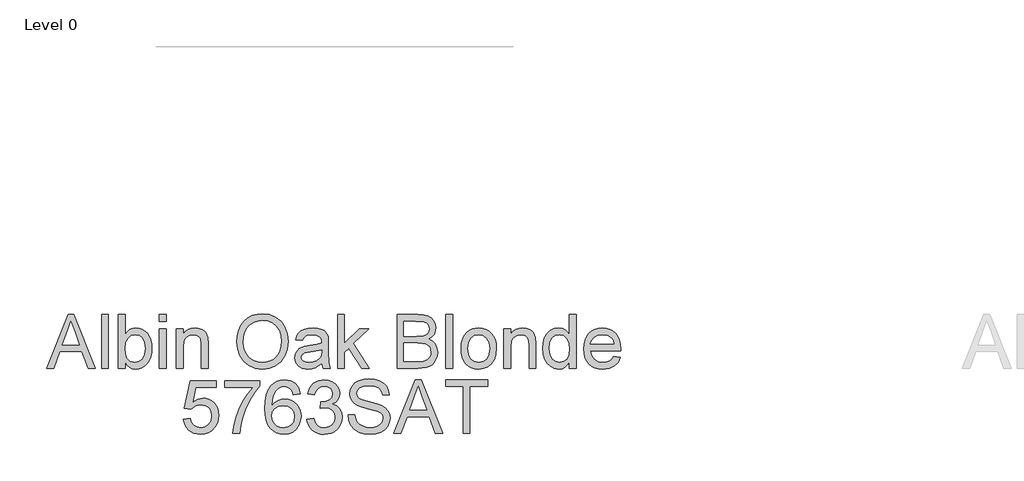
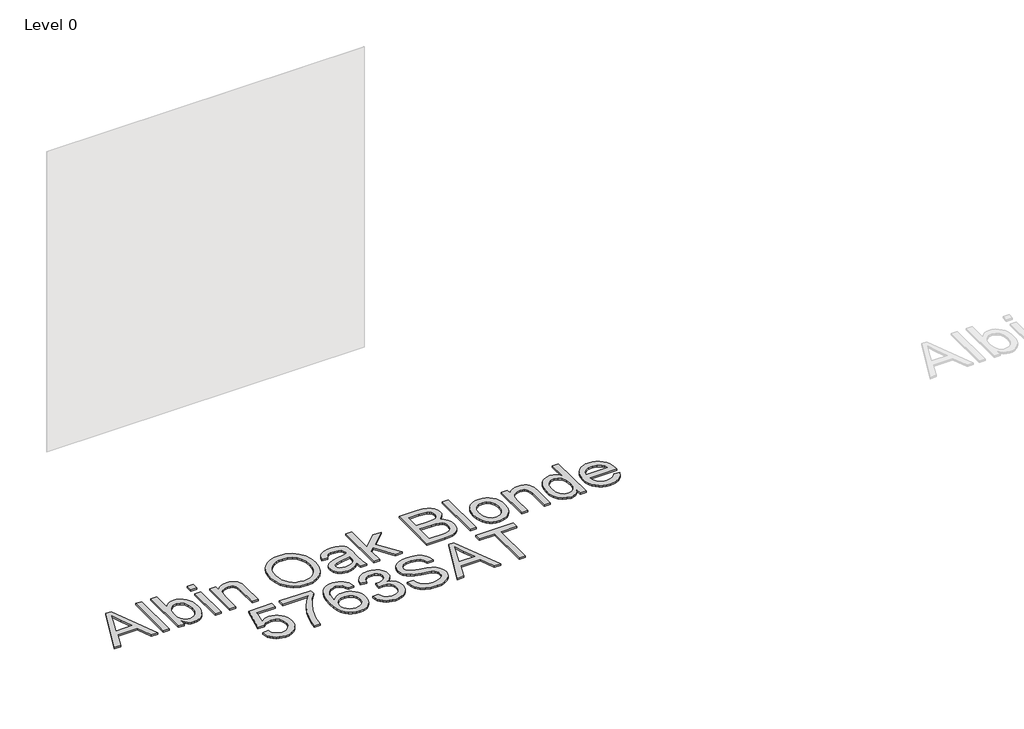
# One storey, part 7 of 43: 1 proxy.
"""IFC4 building model written with IfcOpenShell, lengths in millimetres."""

from ifc_helpers import new_model, si_unit, origin, origin_with_axes, place, context, project, spatial, polyline, outline, extrude, element, save

model = new_model("IFC4")

# Units and contexts
model_context = context("Model", 3, world=origin())
ifc_project = project(units=[si_unit("LENGTHUNIT", "METRE", prefix="MILLI")], contexts=[model_context])

# Site, building, storey
site = spatial("IfcSite", under=ifc_project)
building = spatial("IfcBuilding", under=site)
storey = spatial("IfcBuildingStorey", under=building, Name="Level 0", Elevation=0.0)

# Proxy
placement = place(None, origin())
element("IfcBuildingElementProxy", 1, Name="300mm Arial", ObjectType="300mm Arial", at=placement, inside=storey, context=model_context, shape_type="SweptSolid", body=[
    extrude(outline(polyline([(-11065.5864387, -27017.4454346), (-10945.2890263, -26716.0765041), (-10913.2097163, -26716.0765041), (-10792.9123039, -27017.4454346), (-10832.7171358, -27017.4454346), (-10867.2244669, -26923.2676438), (-10991.3478521, -26923.2676438), (-11025.7816069, -27017.4454346), (-11065.5864387, -27017.4454346)]), holes=[polyline([(-10977.5154891, -26885.5965275), (-10880.9832536, -26885.5965275), (-10908.1329448, -26811.5050937), (-10929.2493713, -26753.7476204), (-10948.0113531, -26805.0303705), (-10977.5154891, -26885.5965275)])]), origin_with_axes(), (0.0, 0.0, 1.0), 10.0),
    extrude(outline(polyline([(-10757.3749032, -27017.4454346), (-10757.3749032, -26716.0765041), (-10719.7037869, -26716.0765041), (-10719.7037869, -27017.4454346), (-10757.3749032, -27017.4454346)])), origin_with_axes(), (0.0, 0.0, 1.0), 10.0),
    extrude(outline(polyline([(-10625.5259961, -27017.4454346), (-10663.1971124, -27017.4454346), (-10663.1971124, -26716.0765041), (-10625.5259961, -26716.0765041), (-10625.5259961, -26827.8390542), (-10613.1375699, -26811.9051653), (-10599.148857, -26800.5238161), (-10583.5598575, -26793.6950066), (-10566.3705713, -26791.4187367), (-10546.964796, -26793.4696788), (-10528.6258786, -26799.6225052), (-10512.4022826, -26809.4909397), (-10499.3424718, -26822.6887063), (-10489.1061552, -26839.0870462), (-10481.3530422, -26858.5572008), (-10476.4694087, -26880.2898297), (-10474.8415309, -26903.4755924), (-10476.5268903, -26930.2298105), (-10481.5829684, -26953.7650612), (-10490.0097654, -26974.0813444), (-10501.8072811, -26991.1786601), (-10515.9684387, -27004.7305131), (-10531.4861611, -27014.4104081), (-10548.3604484, -27020.2183451), (-10566.5913005, -27022.1543241), (-10584.3462053, -27019.657325), (-10600.0869561, -27012.1663279), (-10613.8135531, -26999.6813327), (-10625.5259961, -26982.2023394), (-10625.5259961, -27017.4454346)]), holes=[polyline([(-10625.5259961, -26905.241426), (-10622.9508221, -26936.6585484), (-10615.2253002, -26957.9221277), (-10606.0972282, -26969.5426003), (-10595.4884312, -26977.8429378), (-10583.3989091, -26982.8231403), (-10569.828662, -26984.4832078), (-10548.0868361, -26979.5903772), (-10529.5087954, -26964.9118856), (-10516.7616842, -26940.5397035), (-10512.5126472, -26906.5658012), (-10516.5869403, -26872.0952583), (-10528.8098196, -26847.9989876), (-10546.8084462, -26833.8171367), (-10568.2099813, -26829.089853), (-10589.9518072, -26833.9826836), (-10608.5298479, -26848.6611752), (-10621.2769591, -26872.591899), (-10625.5259961, -26905.241426)])]), origin_with_axes(), (0.0, 0.0, 1.0), 10.0),
    extrude(outline(polyline([(-10432.461525, -26753.7476204), (-10432.461525, -26716.0765041), (-10394.7904087, -26716.0765041), (-10394.7904087, -26753.7476204), (-10432.461525, -26753.7476204)])), origin_with_axes(), (0.0, 0.0, 1.0), 10.0),
    extrude(outline(polyline([(-10432.461525, -27017.4454346), (-10432.461525, -26796.1276263), (-10394.7904087, -26796.1276263), (-10394.7904087, -27017.4454346), (-10432.461525, -27017.4454346)])), origin_with_axes(), (0.0, 0.0, 1.0), 10.0),
    extrude(outline(polyline([(-10338.2837343, -27017.4454346), (-10338.2837343, -26796.1276263), (-10300.612618, -26796.1276263), (-10300.612618, -26827.0297138), (-10287.525216, -26811.4499114), (-10271.8074577, -26800.321481), (-10253.4593432, -26793.6444228), (-10232.4808725, -26791.4187367), (-10213.9120288, -26793.2121614), (-10196.9066835, -26798.5924356), (-10182.7248326, -26806.8881746), (-10172.6264718, -26817.4279938), (-10161.3324946, -26845.129508), (-10159.3459318, -26881.5498255), (-10159.3459318, -27017.4454346), (-10197.0170481, -27017.4454346), (-10197.0170481, -26886.6265971), (-10201.3580557, -26853.2964883), (-10207.3637292, -26843.3728715), (-10216.6987349, -26835.6749407), (-10228.6640968, -26830.7361249), (-10242.5608391, -26829.089853), (-10264.6245618, -26832.7870671), (-10283.4325288, -26843.8787092), (-10290.9488178, -26852.9332048), (-10296.3175957, -26865.3078354), (-10300.612618, -26900.0175017), (-10300.612618, -27017.4454346), (-10338.2837343, -27017.4454346)])), origin_with_axes(), (0.0, 0.0, 1.0), 10.0),
    extrude(outline(polyline([(-9999.2436875, -26870.7340949), (-9996.7328929, -26835.3852337), (-9989.200509, -26804.0922714), (-9976.646536, -26776.8552082), (-9959.0709736, -26753.674044), (-9937.5268843, -26735.1649811), (-9913.0673301, -26721.9442219), (-9885.6923112, -26714.0117664), (-9855.4018274, -26711.3676146), (-9815.872907, -26716.3340215), (-9780.4274768, -26731.2332423), (-9750.9969172, -26755.0168133), (-9729.5126087, -26786.6362708), (-9716.3792214, -26824.5649045), (-9712.0014257, -26867.2760041), (-9716.6091477, -26910.5573209), (-9730.4323136, -26949.0193834), (-9752.7075684, -26980.6940232), (-9782.671557, -27003.6130715), (-9817.8134845, -27017.519011), (-9855.6225566, -27022.1543241), (-9895.7584823, -27017.0315673), (-9931.4062476, -27001.663297), (-9960.7632308, -26977.4382676), (-9982.0268101, -26945.7452337), (-9994.9394682, -26909.2789309), (-9999.2436875, -26870.7340949)]), holes=[polyline([(-9961.5725712, -26871.1019769), (-9959.6894752, -26896.0765658), (-9954.0401874, -26918.2460546), (-9944.6247075, -26937.6104431), (-9931.4430358, -26954.1697314), (-9915.4194757, -26967.4318773), (-9897.4783306, -26976.9048387), (-9877.6196006, -26982.5886155), (-9855.8432858, -26984.4832078), (-9833.6944904, -26982.5702214), (-9813.6012357, -26976.8312623), (-9795.5635216, -26967.2663304), (-9779.5813482, -26953.8754258), (-9766.4962455, -26936.9666496), (-9757.1497435, -26916.848103), (-9751.5418424, -26893.519786), (-9749.672542, -26866.9816985), (-9752.8731153, -26833.6331957), (-9762.4748354, -26804.8096413), (-9778.2293819, -26781.2376025), (-9799.8884343, -26763.6436461), (-9826.017253, -26752.6899597), (-9855.1810982, -26749.0387309), (-9876.2009557, -26750.7976667), (-9895.7033, -26756.074474), (-9913.688131, -26764.869153), (-9930.1554488, -26777.1817035), (-9943.9004399, -26793.6053353), (-9953.7182906, -26814.7332582), (-9959.6090011, -26840.565472), (-9961.5725712, -26871.1019769)])]), origin_with_axes(), (0.0, 0.0, 1.0), 10.0),
    extrude(outline(polyline([(-9523.6458442, -26989.1920973), (-9541.6444708, -27004.624747), (-9560.1765263, -27014.7231078), (-9579.665075, -27020.29652), (-9600.5331811, -27022.1543241), (-9632.0146829, -27017.6845578), (-9655.2372338, -27004.2752591), (-9669.5570405, -26983.9129907), (-9674.3303094, -26958.5843153), (-9672.5276876, -26942.9677246), (-9667.1198223, -26928.7858737), (-9658.778098, -26916.6457679), (-9648.1738995, -26907.1544124), (-9621.7967605, -26894.7935774), (-9589.2024157, -26889.1281946), (-9550.6851708, -26883.1685063), (-9523.8665733, -26876.1787484), (-9523.6458442, -26867.7910389), (-9526.2394122, -26850.9788317), (-9534.0201164, -26839.9791601), (-9551.4209348, -26831.8121798), (-9575.6643583, -26829.089853), (-9598.10516, -26830.9016718), (-9613.776933, -26836.3371283), (-9624.4639049, -26846.3895038), (-9631.9503035, -26862.0520798), (-9669.6214198, -26857.3431903), (-9663.0823174, -26836.7417985), (-9653.3242475, -26820.5549907), (-9639.4367021, -26808.1757616), (-9620.5091735, -26798.9971058), (-9597.3601989, -26793.313329), (-9570.8083159, -26791.4187367), (-9545.3416848, -26793.0925998), (-9525.1541603, -26798.114189), (-9509.9330428, -26805.664967), (-9499.3656325, -26814.9263962), (-9492.3574805, -26826.3767233), (-9487.8141378, -26840.4941949), (-9485.9747278, -26873.4564216), (-9485.9747278, -26920.3245878), (-9484.0617415, -26985.7707948), (-9476.5569488, -27017.4454346), (-9514.2280651, -27017.4454346), (-9523.6458442, -26989.1920973)]), holes=[polyline([(-9523.6458442, -26913.8498647), (-9584.4199498, -26925.4013594), (-9616.8303535, -26931.5082005), (-9631.5088451, -26941.4410143), (-9636.6591931, -26955.935565), (-9633.8540929, -26967.1375717), (-9625.4387922, -26976.3162275), (-9611.5972321, -26982.4414627), (-9592.5133536, -26984.4832078), (-9572.2798439, -26982.2299306), (-9554.4007789, -26975.4700989), (-9539.9062283, -26965.5096939), (-9529.8262617, -26953.6546966), (-9525.3564954, -26941.4410143), (-9523.8665733, -26924.5184426), (-9523.6458442, -26913.8498647)])]), origin_with_axes(), (0.0, 0.0, 1.0), 10.0),
    extrude(outline(polyline([(-9434.1769429, -27017.4454346), (-9434.1769429, -26716.0765041), (-9396.5058266, -26716.0765041), (-9396.5058266, -26878.0181584), (-9312.0401205, -26796.1276263), (-9259.94803, -26796.1276263), (-9345.4438057, -26879.048228), (-9255.2391405, -27017.4454346), (-9299.2378271, -27017.4454346), (-9372.4463441, -26905.241426), (-9396.5058266, -26928.5651445), (-9396.5058266, -27017.4454346), (-9434.1769429, -27017.4454346)])), origin_with_axes(), (0.0, 0.0, 1.0), 10.0),
    extrude(outline(polyline([(-9099.8457857, -27017.4454346), (-9099.8457857, -26716.0765041), (-8984.845874, -26716.0765041), (-8953.2172195, -26718.2929931), (-8928.5231406, -26724.9424602), (-8909.5956119, -26736.1904522), (-8895.2666082, -26752.202516), (-8886.2443023, -26771.0380742), (-8883.2368669, -26790.7565491), (-8885.7660557, -26808.9023285), (-8893.3536218, -26825.9628561), (-8906.0547477, -26840.889668), (-8923.9246156, -26852.6343007), (-8902.5782628, -26863.7811252), (-8886.8053223, -26880.7404851), (-8877.0656465, -26902.3903406), (-8873.8190879, -26927.6086513), (-8876.0355769, -26948.6239103), (-8882.685044, -26968.112459), (-8892.6086608, -26984.6855429), (-8904.6475991, -26996.9544074), (-8919.39047, -27005.8387576), (-8937.4258848, -27012.2582984), (-8985.7287908, -27017.4454346), (-9099.8457857, -27017.4454346)]), holes=[polyline([(-9062.1746694, -26838.5076321), (-8993.3807363, -26838.5076321), (-8953.2080224, -26835.2702705), (-8939.1457332, -26829.6876613), (-8929.0381753, -26821.3275429), (-8922.9405313, -26810.3186742), (-8920.9079833, -26796.7898138), (-8922.8025755, -26783.6564266), (-8928.4863524, -26772.2152966), (-8937.7017963, -26763.2849611), (-8950.1913901, -26757.6839578), (-8998.6046606, -26753.7476204), (-9062.1746694, -26753.7476204), (-9062.1746694, -26838.5076321)]), polyline([(-9062.1746694, -26979.7743182), (-8984.9194504, -26979.7743182), (-8956.9604188, -26978.3027903), (-8933.3056065, -26970.0990218), (-8917.6338335, -26953.360391), (-8913.0261115, -26941.5329848), (-8911.4902042, -26927.9765333), (-8913.292826, -26912.2311839), (-8918.7006913, -26898.6931265), (-8928.1460615, -26888.1073221), (-8942.061198, -26881.2187317), (-8961.7704759, -26877.4387442), (-8988.5982704, -26876.1787484), (-9062.1746694, -26876.1787484), (-9062.1746694, -26979.7743182)])]), origin_with_axes(), (0.0, 0.0, 1.0), 10.0),
    extrude(outline(polyline([(-8826.7301925, -27017.4454346), (-8826.7301925, -26716.0765041), (-8789.0590762, -26716.0765041), (-8789.0590762, -27017.4454346), (-8826.7301925, -27017.4454346)])), origin_with_axes(), (0.0, 0.0, 1.0), 10.0),
    extrude(outline(polyline([(-8741.9701808, -26906.7865304), (-8739.9330343, -26878.1239245), (-8733.8215946, -26853.425247), (-8723.6358619, -26832.690498), (-8709.375836, -26815.9196776), (-8695.0192412, -26805.200516), (-8679.1727242, -26797.5439719), (-8661.8362852, -26792.9500455), (-8643.0099241, -26791.4187367), (-8622.2268906, -26793.2834386), (-8603.4350185, -26798.8775442), (-8586.6343076, -26808.2010535), (-8571.824758, -26821.2539665), (-8559.7375352, -26837.5948249), (-8551.1038047, -26856.7821702), (-8545.9235663, -26878.8160025), (-8544.1968202, -26903.6963216), (-8547.2502408, -26941.753714), (-8556.4105024, -26970.7244212), (-8571.4108908, -26992.4202618), (-8591.9846914, -27008.6530549), (-8616.4212529, -27018.7790068), (-8643.0099241, -27022.1543241), (-8664.0964602, -27020.29652), (-8683.0630763, -27014.7231078), (-8699.9097724, -27005.4340874), (-8714.6365486, -26992.4294589), (-8726.5950127, -26975.9299514), (-8735.1367727, -26956.1562942), (-8740.2618288, -26933.1084872), (-8741.9701808, -26906.7865304)]), holes=[polyline([(-8704.2990645, -26906.712954), (-8699.9396628, -26940.8064179), (-8686.8614579, -26965.0958266), (-8667.1797712, -26979.6363625), (-8643.0099241, -26984.4832078), (-8618.9504416, -26979.6087713), (-8599.3055431, -26964.985462), (-8586.2273381, -26940.3741566), (-8581.8679365, -26905.5357316), (-8586.2549293, -26872.4355491), (-8599.4159077, -26848.4772342), (-8619.0883974, -26833.9366983), (-8643.0099241, -26829.089853), (-8667.1797712, -26833.9183042), (-8686.8614579, -26848.4036578), (-8699.9396628, -26872.6378842), (-8704.2990645, -26906.712954)])]), origin_with_axes(), (0.0, 0.0, 1.0), 10.0),
    extrude(outline(polyline([(-8501.8168143, -27017.4454346), (-8501.8168143, -26796.1276263), (-8464.145698, -26796.1276263), (-8464.145698, -26827.0297138), (-8451.0582961, -26811.4499114), (-8435.3405378, -26800.321481), (-8416.9924233, -26793.6444228), (-8396.0139525, -26791.4187367), (-8377.4451088, -26793.2121614), (-8360.4397636, -26798.5924356), (-8346.2579127, -26806.8881746), (-8336.1595519, -26817.4279938), (-8324.8655747, -26845.129508), (-8322.8790119, -26881.5498255), (-8322.8790119, -27017.4454346), (-8360.5501282, -27017.4454346), (-8360.5501282, -26886.6265971), (-8364.8911357, -26853.2964883), (-8370.8968093, -26843.3728715), (-8380.2318149, -26835.6749407), (-8392.1971768, -26830.7361249), (-8406.0939192, -26829.089853), (-8428.1576419, -26832.7870671), (-8446.9656089, -26843.8787092), (-8454.4818979, -26852.9332048), (-8459.8506757, -26865.3078354), (-8464.145698, -26900.0175017), (-8464.145698, -27017.4454346), (-8501.8168143, -27017.4454346)])), origin_with_axes(), (0.0, 0.0, 1.0), 10.0),
    extrude(outline(polyline([(-8134.5234304, -27017.4454346), (-8134.5234304, -26981.9080338), (-8145.794415, -26999.5157858), (-8159.4474355, -27012.0927515), (-8175.482492, -27019.6389309), (-8193.8995844, -27022.1543241), (-8218.2533725, -27018.5122923), (-8240.5470214, -27007.5861971), (-8259.4193677, -26990.1393935), (-8273.5092481, -26966.9352366), (-8282.2832337, -26938.9118256), (-8285.2078956, -26907.0072596), (-8282.51316, -26875.4981667), (-8274.4289531, -26847.0424944), (-8260.9644721, -26823.2589234), (-8242.128914, -26805.7661345), (-8219.3478214, -26795.0055862), (-8194.0467372, -26791.4187367), (-8175.6158492, -26793.9847136), (-8159.3186768, -26801.6826444), (-8145.5047079, -26813.4824594), (-8134.5234304, -26828.354089), (-8134.5234304, -26716.0765041), (-8096.8523141, -26716.0765041), (-8096.8523141, -27017.4454346), (-8134.5234304, -27017.4454346)]), holes=[polyline([(-8247.5367793, -26906.8601068), (-8243.2877422, -26940.9351766), (-8230.5406311, -26965.169403), (-8212.0177726, -26979.6547566), (-8190.4414936, -26984.4832078), (-8168.8744117, -26979.8754858), (-8150.8206027, -26966.0523198), (-8138.5977235, -26942.7561925), (-8134.5234304, -26909.7295864), (-8138.6712999, -26873.6219685), (-8151.1149083, -26848.5875988), (-8169.6285698, -26833.9642895), (-8191.986598, -26829.089853), (-8213.7836062, -26833.7711514), (-8231.6442771, -26847.8150466), (-8243.5636537, -26871.9389084), (-8247.5367793, -26906.8601068)])]), origin_with_axes(), (0.0, 0.0, 1.0), 10.0),
    extrude(outline(polyline([(-7885.3937432, -26951.520981), (-7848.4583909, -26956.2298706), (-7861.7665221, -26984.0601435), (-7883.0025103, -27004.8638703), (-7911.6881088, -27017.8317106), (-7947.3450712, -27022.1543241), (-7970.7193735, -27020.2896222), (-7991.5460929, -27014.6955166), (-8009.8252296, -27005.3720073), (-8025.5567834, -26992.3190943), (-8038.2073255, -26975.900061), (-8047.243427, -26956.4781909), (-8052.6650879, -26934.053484), (-8054.4723082, -26908.6259404), (-8052.6466938, -26882.3361733), (-8047.1698506, -26859.1642061), (-8038.0417786, -26839.1100389), (-8025.2624778, -26822.1736715), (-8009.5723107, -26808.7183875), (-7991.7116398, -26799.1074704), (-7971.6804652, -26793.3409201), (-7949.4787868, -26791.4187367), (-7927.992179, -26793.3363216), (-7908.5611119, -26799.0890763), (-7891.1855854, -26808.6770008), (-7875.8655996, -26822.1000951), (-7863.359911, -26838.9996743), (-7854.4272763, -26859.0170533), (-7849.0676955, -26882.1522323), (-7847.2811685, -26908.4052112), (-7847.5018977, -26918.5587542), (-8016.8011919, -26918.5587542), (-8010.2804835, -26946.7569092), (-7995.1329424, -26967.4870596), (-7973.2715548, -26980.2341707), (-7946.6093072, -26984.4832078), (-7926.5597385, -26982.5150391), (-7909.6739549, -26976.6105331), (-7895.9519565, -26966.4018077), (-7885.3937432, -26951.520981)]), holes=[polyline([(-8016.8011919, -26880.8876379), (-7884.9522848, -26880.8876379), (-7890.0474505, -26860.985222), (-7900.0354466, -26846.7481888), (-7921.9980017, -26833.504437), (-7949.6259396, -26829.089853), (-7975.0189943, -26832.6123231), (-7996.0158592, -26843.1797334), (-8010.6115773, -26859.6516498), (-8016.8011919, -26880.8876379)])]), origin_with_axes(), (0.0, 0.0, 1.0), 10.0),
    extrude(outline(polyline([(-10298.2581732, -27303.3187659), (-10260.5870569, -27298.6098764), (-10253.6708754, -27321.2254221), (-10241.6043459, -27337.4214269), (-10224.4426509, -27347.1611027), (-10202.2409725, -27350.4076613), (-10175.238434, -27345.8919098), (-10155.0049243, -27332.3446554), (-10142.3681777, -27311.3293964), (-10138.1559289, -27284.4096314), (-10142.1014633, -27259.0625619), (-10153.9380665, -27239.6751808), (-10173.757709, -27227.369528), (-10201.6523613, -27223.2676438), (-10219.9268994, -27224.9047187), (-10234.7249526, -27229.8159433), (-10255.8781674, -27246.8120915), (-10293.5492837, -27242.1032019), (-10260.5870569, -27086.7098472), (-10114.6114812, -27086.7098472), (-10114.6114812, -27124.3809635), (-10230.1264277, -27124.3809635), (-10246.2396591, -27207.3751416), (-10219.3290911, -27191.041181), (-10191.1309362, -27185.5965275), (-10172.785121, -27187.2841861), (-10155.9338263, -27192.3471621), (-10140.5770523, -27200.7854554), (-10126.7147988, -27212.5990659), (-10115.2391799, -27227.0660254), (-10107.0423092, -27243.4643653), (-10102.1241867, -27261.7940857), (-10100.4848126, -27282.0551866), (-10106.3893186, -27319.7263029), (-10113.7699511, -27336.520116), (-10124.1028367, -27351.9527657), (-10139.7562156, -27367.7578959), (-10158.0215566, -27379.0472746), (-10178.8988599, -27385.8209019), (-10202.3881253, -27388.0787776), (-10239.3878569, -27382.2754392), (-10255.0665277, -27375.0212661), (-10268.8644018, -27364.8654237), (-10280.3446193, -27352.3137499), (-10289.0703204, -27337.8720823), (-10298.2581732, -27303.3187659)])), origin_with_axes(), (0.0, 0.0, 1.0), 10.0),
    extrude(outline(polyline([(-10067.5225858, -27124.3809635), (-10067.5225858, -27086.7098472), (-9869.7492252, -27086.7098472), (-9869.7492252, -27117.1704764), (-9897.9381831, -27152.8458329), (-9925.8512295, -27198.2148799), (-9950.471732, -27249.1389451), (-9968.7830583, -27301.479356), (-9977.759379, -27340.6403943), (-9982.7625741, -27383.3698881), (-10020.4336904, -27383.3698881), (-10016.3593973, -27344.5399435), (-10005.4608932, -27298.3891472), (-9988.0324837, -27249.4700389), (-9964.3684744, -27202.3351583), (-9936.7405365, -27159.7252262), (-9907.4203415, -27124.3809635), (-10067.5225858, -27124.3809635)])), origin_with_axes(), (0.0, 0.0, 1.0), 10.0),
    extrude(outline(polyline([(-9643.7225274, -27162.0520798), (-9681.3936437, -27166.7609693), (-9687.4636966, -27148.0909581), (-9695.6674651, -27135.3438469), (-9712.7555838, -27123.5900172), (-9733.4121578, -27119.6720739), (-9750.9233408, -27121.9529423), (-9767.4044542, -27128.7955474), (-9781.5587139, -27143.2073246), (-9793.1194056, -27163.0453612), (-9800.927701, -27191.1055604), (-9803.8247717, -27230.1838253), (-9788.7140187, -27212.5530807), (-9770.6050275, -27200.1278663), (-9750.5094735, -27192.7610293), (-9729.4390323, -27190.305417), (-9711.3392381, -27191.9838786), (-9694.6373955, -27197.0192634), (-9679.3335045, -27205.4115714), (-9665.4275651, -27217.1608027), (-9653.8714719, -27231.5679813), (-9645.6171197, -27247.9341316), (-9640.6645083, -27266.2592534), (-9639.0136378, -27286.543347), (-9642.1222407, -27313.5182943), (-9651.4480493, -27338.5250729), (-9666.2185114, -27359.7334699), (-9685.6610748, -27375.3132724), (-9708.8928228, -27384.8874013), (-9735.0308386, -27388.0787776), (-9757.4877351, -27385.9634562), (-9777.7695294, -27379.6174917), (-9795.8762213, -27369.0408844), (-9811.807811, -27354.2336341), (-9824.7963447, -27334.5703414), (-9834.0738687, -27309.4256071), (-9839.6403832, -27278.799431), (-9841.495888, -27242.6918131), (-9839.4357488, -27202.2109981), (-9833.2553313, -27167.6622802), (-9822.9546354, -27139.0456595), (-9808.5336612, -27116.361136), (-9792.9032749, -27101.328558), (-9774.7804882, -27090.5910022), (-9754.1653009, -27084.1484688), (-9731.057713, -27082.0009576), (-9698.0035158, -27087.3168525), (-9671.5344062, -27103.264537), (-9652.9931537, -27128.5932123), (-9643.7225274, -27162.0520798)]), holes=[polyline([(-9803.8247717, -27285.9547358), (-9801.6450709, -27302.6473813), (-9795.1059684, -27318.5858687), (-9784.9524253, -27332.2894731), (-9771.9294027, -27342.2774692), (-9756.2116445, -27348.3751133), (-9737.9738945, -27350.4076613), (-9713.1142687, -27346.1954125), (-9693.5705377, -27333.5586659), (-9680.9062, -27313.6930382), (-9676.6847541, -27287.7941457), (-9680.8510177, -27262.9345199), (-9693.3498085, -27243.9794001), (-9713.2246333, -27231.97725), (-9739.5189989, -27227.9765333), (-9764.3418365, -27231.97725), (-9785.0995781, -27243.9794001), (-9799.1434733, -27262.4746674), (-9803.8247717, -27285.9547358)])]), origin_with_axes(), (0.0, 0.0, 1.0), 10.0),
    extrude(outline(polyline([(-9606.0514111, -27303.3187659), (-9568.3802948, -27298.6098764), (-9559.9466, -27322.2830828), (-9547.594962, -27338.2675555), (-9530.7183755, -27347.3726349), (-9508.7098351, -27350.4076613), (-9482.8845191, -27346.2322007), (-9462.9453149, -27333.7058187), (-9450.1982038, -27315.0174134), (-9445.9491668, -27292.3558825), (-9450.1614156, -27270.8439828), (-9462.7981621, -27253.3971792), (-9481.9280259, -27241.8364875), (-9505.6196264, -27237.9829236), (-9532.0335536, -27242.1032019), (-9527.8396989, -27204.4320856), (-9521.8064342, -27204.873544), (-9499.2368738, -27202.1696114), (-9479.0585463, -27194.0578134), (-9464.8215131, -27180.3358149), (-9460.0758354, -27160.801281), (-9463.515532, -27144.5316998), (-9473.834622, -27131.3339332), (-9489.5799714, -27122.5875388), (-9509.2984463, -27119.6720739), (-9529.0537095, -27122.6151299), (-9545.2037291, -27131.4442978), (-9556.994347, -27146.1595776), (-9563.6714052, -27166.7609693), (-9601.3425215, -27162.0520798), (-9590.2508794, -27128.2253303), (-9570.5140103, -27102.9702314), (-9543.5114719, -27087.2432761), (-9510.6228215, -27082.0009576), (-9486.9404181, -27084.5853287), (-9465.1893951, -27092.3384417), (-9446.8504777, -27104.570518), (-9433.4043907, -27120.5917789), (-9425.154637, -27139.050258), (-9422.4047191, -27158.593989), (-9425.0166812, -27176.8041478), (-9432.8525677, -27193.3220494), (-9445.802014, -27207.3935357), (-9463.7546553, -27218.2644487), (-9440.1734194, -27227.7925923), (-9422.6990247, -27244.0161883), (-9411.883294, -27266.0523198), (-9408.2780505, -27293.0180701), (-9410.0806722, -27312.1295397), (-9415.4885376, -27329.7326932), (-9424.5016465, -27345.8275305), (-9437.1199989, -27360.4140516), (-9452.4928678, -27372.5173692), (-9469.769526, -27381.1625961), (-9488.9499735, -27386.3497322), (-9510.0342103, -27388.0787776), (-9529.0904977, -27386.6026511), (-9546.4545279, -27382.1742716), (-9562.1263008, -27374.7936391), (-9576.1058167, -27364.4607535), (-9587.8274567, -27351.7826203), (-9596.7256025, -27337.3662446), (-9602.8002539, -27321.2116265), (-9606.0514111, -27303.3187659)])), origin_with_axes(), (0.0, 0.0, 1.0), 10.0),
    extrude(outline(polyline([(-9375.3158237, -27279.7743182), (-9337.6447074, -27279.7743182), (-9333.3220939, -27300.6792126), (-9325.5046015, -27317.4822228), (-9313.3093134, -27330.8179451), (-9295.8533127, -27341.320976), (-9274.516157, -27348.13599), (-9250.6774037, -27350.4076613), (-9229.6897359, -27348.687813), (-9211.3140302, -27343.528268), (-9196.4240065, -27335.3612877), (-9185.8933844, -27324.6191335), (-9179.6301934, -27312.2858896), (-9177.5424631, -27299.3456404), (-9179.1059616, -27286.736485), (-9183.796457, -27275.8379809), (-9193.3246007, -27266.5397635), (-9209.4010439, -27258.7314681), (-9264.2522494, -27244.3472821), (-9300.2586996, -27234.8283355), (-9323.2973096, -27225.7692414), (-9342.0500943, -27213.0957066), (-9355.3398314, -27197.7366333), (-9363.2584913, -27180.0231153), (-9365.8980446, -27160.2862462), (-9362.6330919, -27138.2225236), (-9352.8382338, -27117.648723), (-9336.7709877, -27100.2111164), (-9314.6888709, -27087.5559758), (-9288.1829731, -27079.858045), (-9258.844384, -27077.2920681), (-9227.0593796, -27079.9776067), (-9199.2475008, -27088.0342224), (-9176.4020289, -27101.2963683), (-9159.5162453, -27119.5984975), (-9148.8292734, -27141.800176), (-9144.5802363, -27166.7609693), (-9182.2513526, -27166.7609693), (-9189.1675341, -27144.2833794), (-9203.5885083, -27128.0597834), (-9226.1212806, -27118.2373342), (-9257.372856, -27114.9631844), (-9289.3601955, -27118.200546), (-9311.3043565, -27127.9126306), (-9323.9962854, -27142.2048461), (-9328.2269283, -27159.1826002), (-9325.2286901, -27173.6587567), (-9316.2339753, -27185.3022219), (-9294.9703959, -27195.7132823), (-9254.7241057, -27206.345072), (-9213.1902284, -27216.4434328), (-9188.0638882, -27225.2542066), (-9166.5887767, -27238.9210227), (-9151.6067824, -27255.7884122), (-9142.8052057, -27275.672434), (-9139.8713468, -27298.3891472), (-9143.2466641, -27321.6116981), (-9153.372616, -27343.4546916), (-9169.8353353, -27362.2534616), (-9192.2209547, -27376.343342), (-9219.1407197, -27385.1449187), (-9249.2058757, -27388.0787776), (-9286.1136369, -27384.9149925), (-9316.4914927, -27375.423637), (-9340.6889309, -27359.567923), (-9359.0554395, -27337.3110623), (-9370.8460575, -27310.1981592), (-9375.3158237, -27279.7743182)])), origin_with_axes(), (0.0, 0.0, 1.0), 10.0),
    extrude(outline(polyline([(-9118.4606147, -27383.3698881), (-8998.1632022, -27082.0009576), (-8966.0838923, -27082.0009576), (-8845.7864798, -27383.3698881), (-8885.5913117, -27383.3698881), (-8920.0986429, -27289.1920973), (-9044.222028, -27289.1920973), (-9078.6557828, -27383.3698881), (-9118.4606147, -27383.3698881)]), holes=[polyline([(-9030.389665, -27251.520981), (-8933.8574295, -27251.520981), (-8961.0071207, -27177.4295472), (-8982.1235473, -27119.6720739), (-9000.885529, -27170.9548241), (-9030.389665, -27251.520981)])]), origin_with_axes(), (0.0, 0.0, 1.0), 10.0),
    extrude(outline(polyline([(-8730.197957, -27383.3698881), (-8730.197957, -27119.6720739), (-8829.0846373, -27119.6720739), (-8829.0846373, -27082.0009576), (-8593.6401603, -27082.0009576), (-8593.6401603, -27119.6720739), (-8692.5268406, -27119.6720739), (-8692.5268406, -27383.3698881), (-8730.197957, -27383.3698881)])), origin_with_axes(), (0.0, 0.0, 1.0), 10.0),
])

save(model, "model.ifc")
